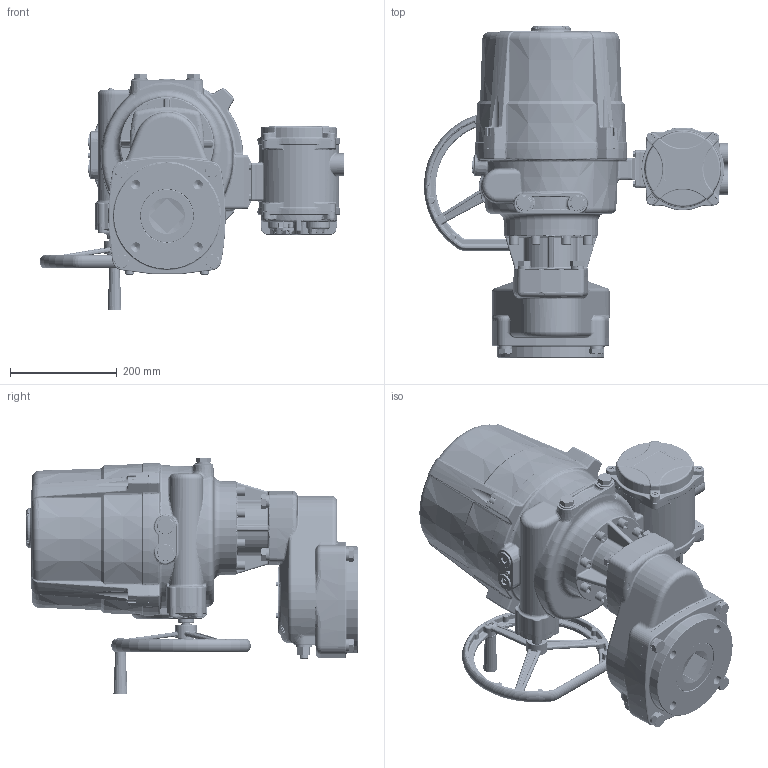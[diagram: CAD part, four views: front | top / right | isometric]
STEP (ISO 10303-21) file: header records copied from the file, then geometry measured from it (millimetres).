
FILE_DESCRIPTION (( 'STEP AP214' ), '1' );
FILE_NAME ('JYH-350Y-500Y-秷夔倰.STEP', '2024-07-24T01:44:29', ( 'Windows User' ), ( 'P R C' ), 'SwSTEP 2.0', 'SolidWorks 2015', '' );
FILE_SCHEMA (( 'AUTOMOTIVE_DESIGN' ));
Length unit declared in the file: millimetre
Products named in the file (1): JYH-350Y-500Y-秷夔倰
Bounding box: 570 x 621 x 443.53 mm (x, y, z)
Volume: 16026167.7 mm3; surface area: 2012517.6 mm2
Topology: 29 solids, 43 shells, 8733 faces, 21051 edges, 12307 vertices
Faces by surface type: bspline 2288, plane 2102, cylinder 1900, torus 1455, cone 710, sphere 278
Entity records: 378602 total; most frequent: CARTESIAN_POINT 163789, ORIENTED_EDGE 41220, DIRECTION 36756, EDGE_CURVE 20610, AXIS2_PLACEMENT_3D 15261, VERTEX_POINT 12282, EDGE_LOOP 9174, CIRCLE 8815
